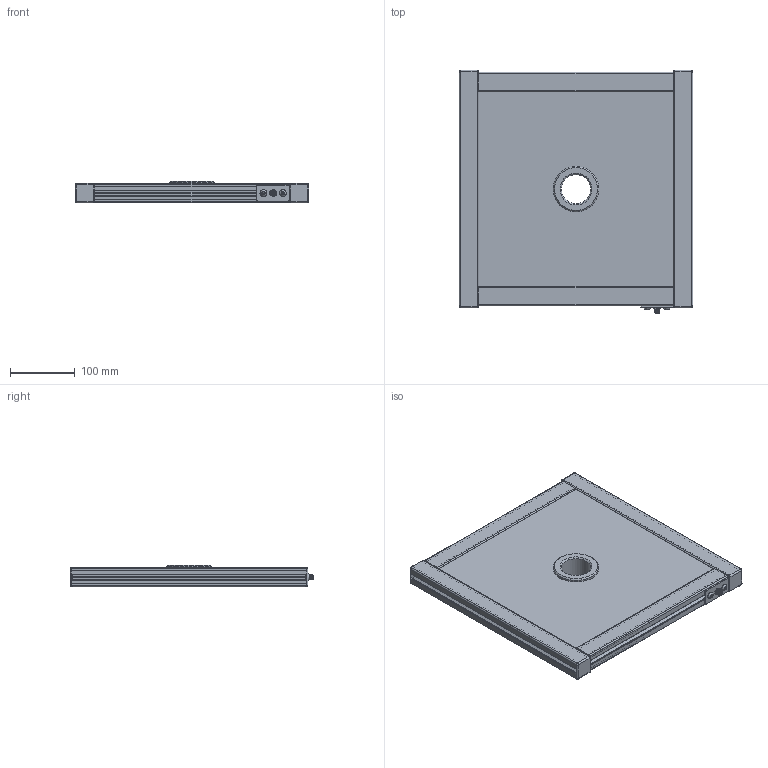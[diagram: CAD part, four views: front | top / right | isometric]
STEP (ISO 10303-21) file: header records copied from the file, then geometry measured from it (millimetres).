
FILE_DESCRIPTION (( 'STEP AP214' ), '1' );
FILE_NAME ('19027-STP01v01 - FL_3030.STEP', '2019-10-01T20:57:15', ( '' ), ( '' ), 'SwSTEP 2.0', 'SolidWorks 2018', '' );
FILE_SCHEMA (( 'AUTOMOTIVE_DESIGN' ));
Length unit declared in the file: millimetre
Products named in the file (1): 19027-STP01v01 - FL_3030
Bounding box: 360 x 375.01 x 33.6 mm (x, y, z)
Volume: 2843450.6 mm3; surface area: 629094.1 mm2
Topology: 1 solids, 21 shells, 810 faces, 2182 edges, 1394 vertices
Faces by surface type: plane 453, cylinder 299, cone 22, sphere 21, bspline 11, torus 4
Full cylindrical faces by diameter (mm): 1 x3, 5.8 x1, 6 x2, 6.5 x1, 6.9 x1, 10.5 x2, 45 x1, 70 x1, 74 x1
Entity records: 29126 total; most frequent: CARTESIAN_POINT 8092, DIRECTION 4257, ORIENTED_EDGE 4250, EDGE_CURVE 2125, AXIS2_PLACEMENT_3D 1437, VERTEX_POINT 1383, LINE 1383, VECTOR 1383
